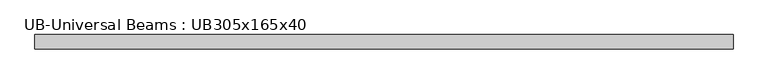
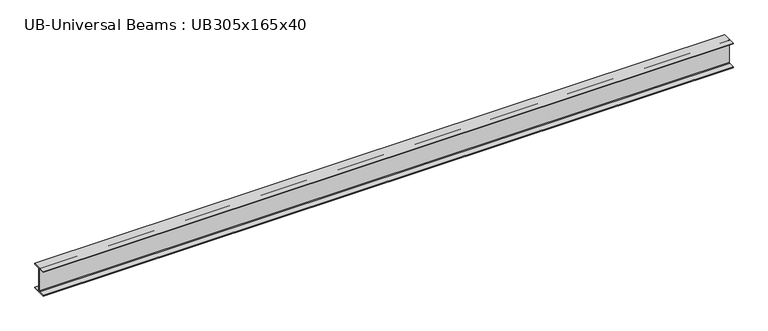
"""IFC4 building model written with IfcOpenShell, lengths in millimetres: beam geometry, UB-Universal Beams : UB305x165x40."""

import ifcopenshell
import ifcopenshell.guid

model = None  # the IFC model being written
_history = None  # IfcOwnerHistory: only IFC2X3 demands one
_inside = {}  # id of a spatial element -> (the spatial element, [elements in it])
_under = {}  # id of a project, library or spatial element -> (it, [spatial elements below it])
_declared = {}  # id of a project -> (the project, [libraries it declares])
_typed = {}  # id of a type object -> (the type object, [elements of that type])
_made_of = {}  # id of a material, layer set ... -> (it, [elements and type objects made of it])


def new_model(schema):
    """Start an empty IFC model of exactly this schema.

    Asked for "IFC4X3", IfcOpenShell would pick the latest addendum, in which some entities
    have other attributes; the version numbers below select the first issue.
    IFC2X3 requires an IfcOwnerHistory on every rooted entity: one is made here for all.
    """
    global model, _history
    if schema == "IFC4X3":
        model = ifcopenshell.file(schema_version=(4, 3, 0, 0))
    else:
        model = ifcopenshell.file(schema=schema)
    _inside.clear()
    _under.clear()
    _declared.clear()
    _typed.clear()
    _made_of.clear()
    _history = None
    if model.schema == "IFC2X3":
        org = make("IfcOrganization", Name="unknown")
        user = make(
            "IfcPersonAndOrganization",
            ThePerson=make("IfcPerson", FamilyName="unknown"),
            TheOrganization=org,
        )
        app = make(
            "IfcApplication",
            ApplicationDeveloper=org,
            Version="unknown",
            ApplicationFullName="unknown",
            ApplicationIdentifier="unknown",
        )
        _history = make(
            "IfcOwnerHistory",
            OwningUser=user,
            OwningApplication=app,
            ChangeAction="ADDED",
            CreationDate=0,
        )
    return model


def make(cls, **values):
    """One entity of the class cls with the attributes given. An attribute that is None is left unset."""
    return model.create_entity(
        cls, **{name: value for name, value in values.items() if value is not None}
    )


def rooted(cls, **values):
    """An entity with a GlobalId (a new one), such as an element, a storey or a relation."""
    return make(cls, GlobalId=ifcopenshell.guid.new(), OwnerHistory=_history, **values)


def si_unit(unit_type, name, prefix=None):
    """IfcSIUnit, for example si_unit("LENGTHUNIT", "METRE", prefix="MILLI")."""
    return make("IfcSIUnit", UnitType=unit_type, Prefix=prefix, Name=name)


def assignment(units):
    """IfcUnitAssignment: the units of a project."""
    return None if units is None else make("IfcUnitAssignment", Units=units)


def point(xyz):
    """IfcCartesianPoint."""
    return None if xyz is None else make("IfcCartesianPoint", Coordinates=xyz)


def direction(xyz):
    """IfcDirection."""
    return None if xyz is None else make("IfcDirection", DirectionRatios=xyz)


def frame(location, z_axis=None, x_axis=None):
    """IfcAxis2Placement3D, a coordinate frame: its origin and axes. An axis left out is left unset."""
    return make(
        "IfcAxis2Placement3D",
        Location=point(location),
        Axis=direction(z_axis),
        RefDirection=direction(x_axis),
    )


def frame_2d(location, x_axis=None):
    """IfcAxis2Placement2D, a coordinate frame in the plane: its origin and x axis."""
    return make(
        "IfcAxis2Placement2D", Location=point(location), RefDirection=direction(x_axis)
    )


def origin():
    """The frame at (0, 0, 0) with its axes left unset."""
    return frame((0.0, 0.0, 0.0))


def place(relative_to, where):
    """IfcLocalPlacement: puts the frame where relative to a parent placement (None: the world)."""
    return make(
        "IfcLocalPlacement", PlacementRelTo=relative_to, RelativePlacement=where
    )


def context(
    kind, dimensions, precision=None, world=None, true_north=None, identifier=None
):
    """IfcGeometricRepresentationContext, for example the 3D "Model" context."""
    return make(
        "IfcGeometricRepresentationContext",
        ContextIdentifier=identifier,
        ContextType=kind,
        CoordinateSpaceDimension=dimensions,
        Precision=precision,
        WorldCoordinateSystem=world,
        TrueNorth=true_north,
    )


def project(units=None, contexts=None):
    """IfcProject with its units and contexts."""
    return rooted(
        "IfcProject",
        Name="project",
        RepresentationContexts=contexts,
        UnitsInContext=assignment(units),
    )


def spatial(cls, under=None, at=None, **own):
    """A site, building, storey or space (cls), placed at a placement, below another one or the project."""
    s = rooted(cls, ObjectPlacement=at, **own)
    if under is not None:
        _under.setdefault(under.id(), (under, []))[1].append(s)
    return s


def polyline(points):
    """IfcPolyline through the points."""
    return make("IfcPolyline", Points=[point(p) for p in points])


def circle_curve(where, radius):
    """IfcCircle in the frame where."""
    return make("IfcCircle", Position=where, Radius=radius)


def trimmed(basis, trim1, trim2, sense, master):
    """IfcTrimmedCurve: the piece of a basis curve between two trims."""
    return make(
        "IfcTrimmedCurve",
        BasisCurve=basis,
        Trim1=trim1,
        Trim2=trim2,
        SenseAgreement=sense,
        MasterRepresentation=master,
    )


def segment(curve, same_sense, transition):
    """IfcCompositeCurveSegment."""
    return make(
        "IfcCompositeCurveSegment",
        Transition=transition,
        SameSense=same_sense,
        ParentCurve=curve,
    )


def composite_curve(segments, self_intersect=None):
    """IfcCompositeCurve: segments joined end to end."""
    return make("IfcCompositeCurve", Segments=segments, SelfIntersect=self_intersect)


def outline(outer, holes=None, kind="AREA"):
    """IfcArbitraryClosedProfileDef: a profile drawn as a closed curve; with holes, ...WithVoids."""
    if holes is None:
        return make("IfcArbitraryClosedProfileDef", ProfileType=kind, OuterCurve=outer)
    return make(
        "IfcArbitraryProfileDefWithVoids",
        ProfileType=kind,
        OuterCurve=outer,
        InnerCurves=holes,
    )


def extrude(swept, where, along, depth):
    """IfcExtrudedAreaSolid: the profile swept, set in the frame where, extruded along a direction by depth."""
    return make(
        "IfcExtrudedAreaSolid",
        SweptArea=swept,
        Position=where,
        ExtrudedDirection=direction(along),
        Depth=depth,
    )


def shape(context_of_items, identifier, shape_type, items):
    """IfcShapeRepresentation: the items that make up one representation, for example the "Body"."""
    return make(
        "IfcShapeRepresentation",
        ContextOfItems=context_of_items,
        RepresentationIdentifier=identifier,
        RepresentationType=shape_type,
        Items=items,
    )


def source(mapping_origin, context_of_items, identifier, shape_type, items):
    """IfcRepresentationMap: a shape defined once, which mapped items show again and again."""
    return make(
        "IfcRepresentationMap",
        MappingOrigin=mapping_origin,
        MappedRepresentation=shape(context_of_items, identifier, shape_type, items),
    )


def transform(
    local_origin,
    x_axis=None,
    y_axis=None,
    z_axis=None,
    scale=None,
    scale2=None,
    scale3=None,
    uniform=True,
):
    """IfcCartesianTransformationOperator3D, or its non-uniform kind. x_axis, y_axis, z_axis: its Axis1, 2, 3."""
    if uniform:
        return make(
            "IfcCartesianTransformationOperator3D",
            Axis1=direction(x_axis),
            Axis2=direction(y_axis),
            LocalOrigin=point(local_origin),
            Scale=scale,
            Axis3=direction(z_axis),
        )
    return make(
        "IfcCartesianTransformationOperator3DnonUniform",
        Axis1=direction(x_axis),
        Axis2=direction(y_axis),
        LocalOrigin=point(local_origin),
        Scale=scale,
        Axis3=direction(z_axis),
        Scale2=scale2,
        Scale3=scale3,
    )


def mapped(mapping_source, mapping_target):
    """IfcMappedItem: shows the shape of a source again, moved by a transform."""
    return make(
        "IfcMappedItem", MappingSource=mapping_source, MappingTarget=mapping_target
    )


def made_of(thing, what):
    """Note that an element or type object is made of a material, layer set ...; save() writes the relation."""
    if what is not None:
        _made_of.setdefault(what.id(), (what, []))[1].append(thing)
    return thing


def element(
    cls,
    number,
    at=None,
    inside=None,
    cuts=None,
    type_object=None,
    material=None,
    context=None,
    identifier="Body",
    shape_type=None,
    held_by="IfcProductDefinitionShape",
    body=None,
    shapes=None,
    **own,
):
    """One element of the class cls, such as IfcWall. Its Tag is "e" and its number.

    at: its placement. inside: the storey or other place that contains it. cuts: it is an
    opening in that element (IfcRelVoidsElement). A single representation is given by context,
    identifier, shape_type and body (its items); several are given by shapes. held_by: the class
    of the entity that holds the representations. save() writes the other relations.
    """
    e = rooted(cls, Tag="e%d" % number, ObjectPlacement=at, **own)
    if body is not None:
        shapes = [shape(context, identifier, shape_type, body)]
    if shapes is not None:
        e.Representation = make(held_by, Representations=shapes)
    if inside is not None:
        _inside.setdefault(inside.id(), (inside, []))[1].append(e)
    if cuts is not None:
        rooted(
            "IfcRelVoidsElement", RelatingBuildingElement=cuts, RelatedOpeningElement=e
        )
    if type_object is not None:
        _typed.setdefault(type_object.id(), (type_object, []))[1].append(e)
    return made_of(e, material)


def aggregate(whole, parts):
    """IfcRelAggregates: a whole, such as a stair, and the parts it consists of."""
    return rooted("IfcRelAggregates", RelatingObject=whole, RelatedObjects=parts)


def save(model, path):
    """Write the relations noted so far, then the file.

    IfcRelAggregates (storeys below a building ...), IfcRelContainedInSpatialStructure (elements
    in a storey), IfcRelDefinesByType, IfcRelAssociatesMaterial and IfcRelDeclares: one each for
    every whole, place, type object, material and project.
    """
    for whole, parts in _under.values():
        aggregate(whole, parts)
    for where, things in _inside.values():
        rooted(
            "IfcRelContainedInSpatialStructure",
            RelatedElements=things,
            RelatingStructure=where,
        )
    for kind, things in _typed.values():
        rooted("IfcRelDefinesByType", RelatedObjects=things, RelatingType=kind)
    for what, things in _made_of.values():
        rooted("IfcRelAssociatesMaterial", RelatedObjects=things, RelatingMaterial=what)
    for by, libraries in _declared.values():
        rooted("IfcRelDeclares", RelatingContext=by, RelatedDefinitions=libraries)
    model.write(path)


def ub_universal_beams_ub305x165x40_7371696c(model_context):
    return source(origin(), model_context, "Body", "SweptSolid", [
        extrude(outline(composite_curve([segment(polyline([(82.5, -141.5), (82.5, -151.7), (-82.5, -151.7), (-82.5, -141.5), (-11.9, -141.5)]), True, "CONTINUOUS"), segment(trimmed(circle_curve(frame_2d((-11.9, -132.6)), 8.9), [point((-11.9, -141.5))], [point((-3.0, -132.6))], True, "CARTESIAN"), True, "CONTINUOUS"), segment(polyline([(-3.0, -132.6), (-3.0, 132.6)]), True, "CONTINUOUS"), segment(trimmed(circle_curve(frame_2d((-11.9, 132.6)), 8.9), [point((-3.0, 132.6))], [point((-11.9, 141.5))], True, "CARTESIAN"), True, "CONTINUOUS"), segment(polyline([(-11.9, 141.5), (-82.5, 141.5), (-82.5, 151.7), (82.5, 151.7), (82.5, 141.5), (11.9, 141.5)]), True, "CONTINUOUS"), segment(trimmed(circle_curve(frame_2d((11.9, 132.6)), 8.9), [point((11.9, 141.5))], [point((3.0, 132.6))], True, "CARTESIAN"), True, "CONTINUOUS"), segment(polyline([(3.0, 132.6), (3.0, -132.6)]), True, "CONTINUOUS"), segment(trimmed(circle_curve(frame_2d((11.9, -132.6)), 8.9), [point((3.0, -132.6))], [point((11.9, -141.5))], True, "CARTESIAN"), True, "CONTINUOUS"), segment(polyline([(11.9, -141.5), (82.5, -141.5)]), True, "CONTINUOUS")], self_intersect=False)), frame((-4004.85, 0.0, 0.0), z_axis=(1.0, 0.0, 0.0), x_axis=(0.0, 1.0, 0.0)), (0.0, 0.0, 1.0), 8061.0),
    ])


if __name__ == "__main__":
    model = new_model("IFC4")
    model_context = context("Model", 3, world=origin())
    ifc_project = project(units=[si_unit("LENGTHUNIT", "METRE", prefix="MILLI")], contexts=[model_context])
    site = spatial("IfcSite", under=ifc_project)
    building = spatial("IfcBuilding", under=site)
    placement = place(None, origin())
    ub_universal_beams_ub305x165x40_shape = ub_universal_beams_ub305x165x40_7371696c(model_context)
    element("IfcBeam", 1, ObjectType="UB-Universal Beams : UB305x165x40", at=placement, inside=building, context=model_context, shape_type="MappedRepresentation", body=[
        mapped(ub_universal_beams_ub305x165x40_shape, transform((0.0, 0.0, 0.0), x_axis=(1.0, 0.0, 0.0), y_axis=(0.0, 1.0, 0.0), z_axis=(0.0, 0.0, 1.0))),
    ])
    save(model, "model.ifc")
